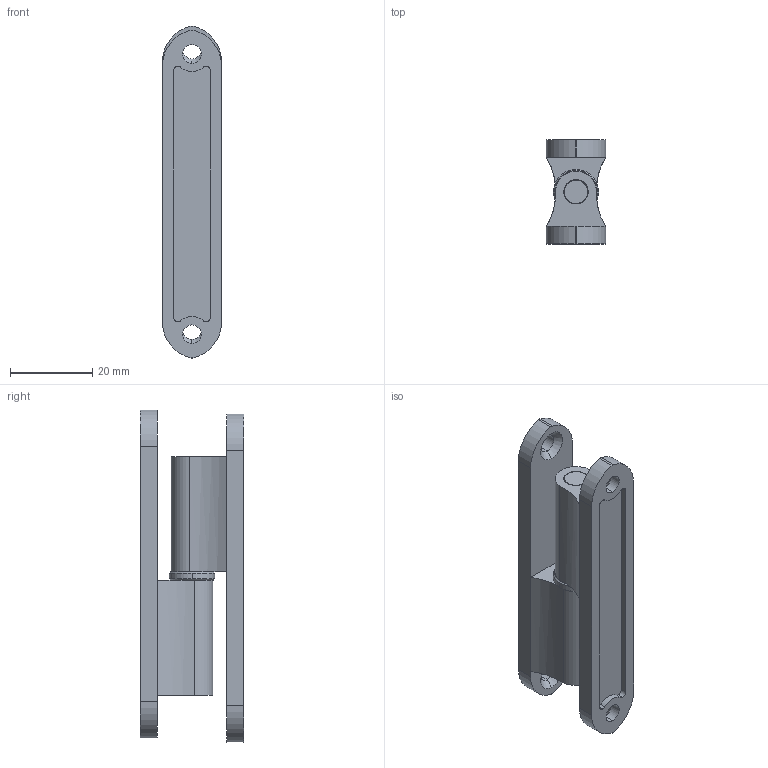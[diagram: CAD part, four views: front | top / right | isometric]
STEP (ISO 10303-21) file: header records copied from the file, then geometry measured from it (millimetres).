
FILE_DESCRIPTION (( 'STEP AP214' ), '1' );
FILE_NAME ('XG02-041Ä£ÐÍ.STEP', '2023-07-06T05:54:21', ( '' ), ( '' ), 'SwSTEP 2.0', 'SolidWorks 2019', '' );
FILE_SCHEMA (( 'AUTOMOTIVE_DESIGN' ));
Length unit declared in the file: millimetre
Products named in the file (5): HL016-B-B; HL016-A ; HL016-C菜え ; XG02-041耀倰; HL016-种赽
Assembly tree (4 placements, depth 2):
  XG02-041耀倰
    HL016-A 
    HL016-种赽
    HL016-B-B
    HL016-C菜え 
Bounding box: 14.4 x 25.17 x 80.58 mm (x, y, z)
Volume: 14582.6 mm3; surface area: 10163.1 mm2
Topology: 4 solids, 4 shells, 232 faces, 644 edges, 422 vertices
Faces by surface type: plane 129, cylinder 85, cone 14, bspline 4
Entity records: 7720 total; most frequent: DIRECTION 1360, CARTESIAN_POINT 1341, ORIENTED_EDGE 1288, EDGE_CURVE 644, AXIS2_PLACEMENT_3D 489, VERTEX_POINT 422, LINE 382, VECTOR 382
